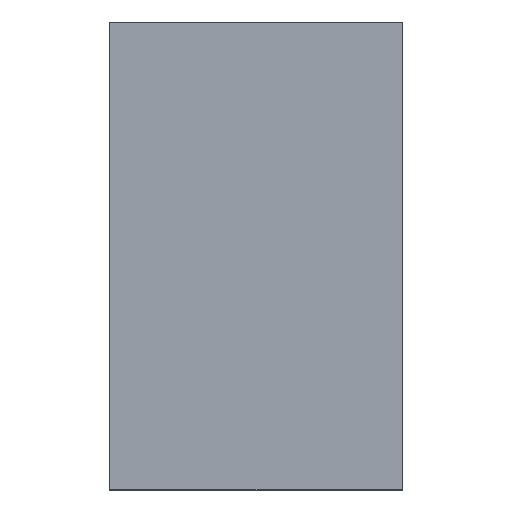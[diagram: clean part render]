
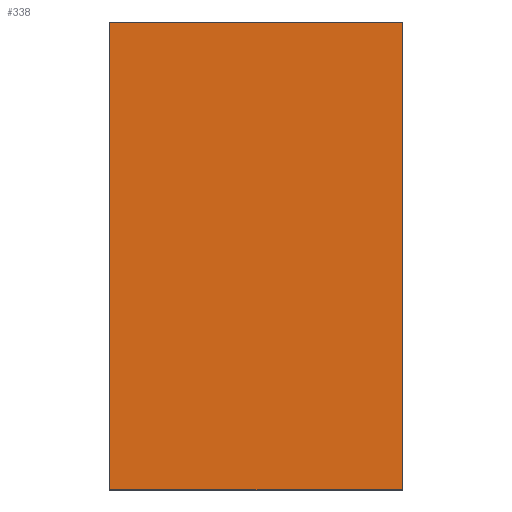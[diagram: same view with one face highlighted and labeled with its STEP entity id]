
A CAD part, top view. The second image highlights one B-rep face of the part: STEP entity #338.
In plain terms, the highlighted planar face has unit normal (0, 0, 1).
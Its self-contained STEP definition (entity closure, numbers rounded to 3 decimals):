
#21 = EDGE_CURVE('',#22,#24,#26,.T.);
#22 = VERTEX_POINT('',#23);
#23 = CARTESIAN_POINT('',(-35.5,83.,48.));
#24 = VERTEX_POINT('',#25);
#25 = CARTESIAN_POINT('',(-35.5,43.,48.));
#26 = SURFACE_CURVE('',#27,(#31,#43),.PCURVE_S1.);
#27 = LINE('',#28,#29);
#28 = CARTESIAN_POINT('',(-35.5,43.,48.));
#29 = VECTOR('',#30,1.);
#30 = DIRECTION('',(0.,-1.,0.));
#31 = PCURVE('',#32,#37);
#32 = PLANE('',#33);
#33 = AXIS2_PLACEMENT_3D('',#34,#35,#36);
#34 = CARTESIAN_POINT('',(-35.5,43.,38.));
#35 = DIRECTION('',(1.,0.,0.));
#36 = DIRECTION('',(0.,0.,1.));
#37 = DEFINITIONAL_REPRESENTATION('',(#38),#42);
#38 = LINE('',#39,#40);
#39 = CARTESIAN_POINT('',(10.,0.));
#40 = VECTOR('',#41,1.);
#41 = DIRECTION('',(0.,1.));
#42 = ( GEOMETRIC_REPRESENTATION_CONTEXT(2) 
PARAMETRIC_REPRESENTATION_CONTEXT() REPRESENTATION_CONTEXT('2D SPACE',''
  ) );
#43 = PCURVE('',#44,#49);
#44 = PLANE('',#45);
#45 = AXIS2_PLACEMENT_3D('',#46,#47,#48);
#46 = CARTESIAN_POINT('',(-35.5,43.,48.));
#47 = DIRECTION('',(0.,0.,1.));
#48 = DIRECTION('',(1.,0.,0.));
#49 = DEFINITIONAL_REPRESENTATION('',(#50),#54);
#50 = LINE('',#51,#52);
#51 = CARTESIAN_POINT('',(0.,0.));
#52 = VECTOR('',#53,1.);
#53 = DIRECTION('',(0.,-1.));
#54 = ( GEOMETRIC_REPRESENTATION_CONTEXT(2) 
PARAMETRIC_REPRESENTATION_CONTEXT() REPRESENTATION_CONTEXT('2D SPACE',''
  ) );
#72 = PLANE('',#73);
#73 = AXIS2_PLACEMENT_3D('',#74,#75,#76);
#74 = CARTESIAN_POINT('',(-35.5,83.,38.));
#75 = DIRECTION('',(0.,1.,0.));
#76 = DIRECTION('',(0.,0.,1.));
#126 = PLANE('',#127);
#127 = AXIS2_PLACEMENT_3D('',#128,#129,#130);
#128 = CARTESIAN_POINT('',(-35.5,43.,38.));
#129 = DIRECTION('',(0.,1.,0.));
#130 = DIRECTION('',(0.,0.,1.));
#144 = VERTEX_POINT('',#145);
#145 = CARTESIAN_POINT('',(-10.5,43.,48.));
#152 = PLANE('',#153);
#153 = AXIS2_PLACEMENT_3D('',#154,#155,#156);
#154 = CARTESIAN_POINT('',(-10.5,43.,38.));
#155 = DIRECTION('',(1.,0.,0.));
#156 = DIRECTION('',(0.,0.,1.));
#195 = VERTEX_POINT('',#196);
#196 = CARTESIAN_POINT('',(-10.5,83.,48.));
#217 = EDGE_CURVE('',#144,#195,#218,.T.);
#218 = SURFACE_CURVE('',#219,(#223,#230),.PCURVE_S1.);
#219 = LINE('',#220,#221);
#220 = CARTESIAN_POINT('',(-10.5,43.,48.));
#221 = VECTOR('',#222,1.);
#222 = DIRECTION('',(0.,1.,0.));
#223 = PCURVE('',#152,#224);
#224 = DEFINITIONAL_REPRESENTATION('',(#225),#229);
#225 = LINE('',#226,#227);
#226 = CARTESIAN_POINT('',(10.,0.));
#227 = VECTOR('',#228,1.);
#228 = DIRECTION('',(0.,-1.));
#229 = ( GEOMETRIC_REPRESENTATION_CONTEXT(2) 
PARAMETRIC_REPRESENTATION_CONTEXT() REPRESENTATION_CONTEXT('2D SPACE',''
  ) );
#230 = PCURVE('',#44,#231);
#231 = DEFINITIONAL_REPRESENTATION('',(#232),#236);
#232 = LINE('',#233,#234);
#233 = CARTESIAN_POINT('',(25.,0.));
#234 = VECTOR('',#235,1.);
#235 = DIRECTION('',(0.,1.));
#236 = ( GEOMETRIC_REPRESENTATION_CONTEXT(2) 
PARAMETRIC_REPRESENTATION_CONTEXT() REPRESENTATION_CONTEXT('2D SPACE',''
  ) );
#242 = EDGE_CURVE('',#24,#144,#243,.T.);
#243 = SURFACE_CURVE('',#244,(#248,#255),.PCURVE_S1.);
#244 = LINE('',#245,#246);
#245 = CARTESIAN_POINT('',(-35.5,43.,48.));
#246 = VECTOR('',#247,1.);
#247 = DIRECTION('',(1.,0.,0.));
#248 = PCURVE('',#126,#249);
#249 = DEFINITIONAL_REPRESENTATION('',(#250),#254);
#250 = LINE('',#251,#252);
#251 = CARTESIAN_POINT('',(10.,0.));
#252 = VECTOR('',#253,1.);
#253 = DIRECTION('',(0.,1.));
#254 = ( GEOMETRIC_REPRESENTATION_CONTEXT(2) 
PARAMETRIC_REPRESENTATION_CONTEXT() REPRESENTATION_CONTEXT('2D SPACE',''
  ) );
#255 = PCURVE('',#44,#256);
#256 = DEFINITIONAL_REPRESENTATION('',(#257),#261);
#257 = LINE('',#258,#259);
#258 = CARTESIAN_POINT('',(0.,0.));
#259 = VECTOR('',#260,1.);
#260 = DIRECTION('',(1.,0.));
#261 = ( GEOMETRIC_REPRESENTATION_CONTEXT(2) 
PARAMETRIC_REPRESENTATION_CONTEXT() REPRESENTATION_CONTEXT('2D SPACE',''
  ) );
#310 = EDGE_CURVE('',#22,#195,#311,.T.);
#311 = SURFACE_CURVE('',#312,(#316,#323),.PCURVE_S1.);
#312 = LINE('',#313,#314);
#313 = CARTESIAN_POINT('',(-35.5,83.,48.));
#314 = VECTOR('',#315,1.);
#315 = DIRECTION('',(1.,0.,0.));
#316 = PCURVE('',#72,#317);
#317 = DEFINITIONAL_REPRESENTATION('',(#318),#322);
#318 = LINE('',#319,#320);
#319 = CARTESIAN_POINT('',(10.,0.));
#320 = VECTOR('',#321,1.);
#321 = DIRECTION('',(0.,1.));
#322 = ( GEOMETRIC_REPRESENTATION_CONTEXT(2) 
PARAMETRIC_REPRESENTATION_CONTEXT() REPRESENTATION_CONTEXT('2D SPACE',''
  ) );
#323 = PCURVE('',#44,#324);
#324 = DEFINITIONAL_REPRESENTATION('',(#325),#329);
#325 = LINE('',#326,#327);
#326 = CARTESIAN_POINT('',(0.,40.));
#327 = VECTOR('',#328,1.);
#328 = DIRECTION('',(1.,0.));
#329 = ( GEOMETRIC_REPRESENTATION_CONTEXT(2) 
PARAMETRIC_REPRESENTATION_CONTEXT() REPRESENTATION_CONTEXT('2D SPACE',''
  ) );
#338 = ADVANCED_FACE('',(#339),#44,.T.);
#339 = FACE_BOUND('',#340,.T.);
#340 = EDGE_LOOP('',(#341,#342,#343,#344));
#341 = ORIENTED_EDGE('',*,*,#21,.T.);
#342 = ORIENTED_EDGE('',*,*,#242,.T.);
#343 = ORIENTED_EDGE('',*,*,#217,.T.);
#344 = ORIENTED_EDGE('',*,*,#310,.F.);
